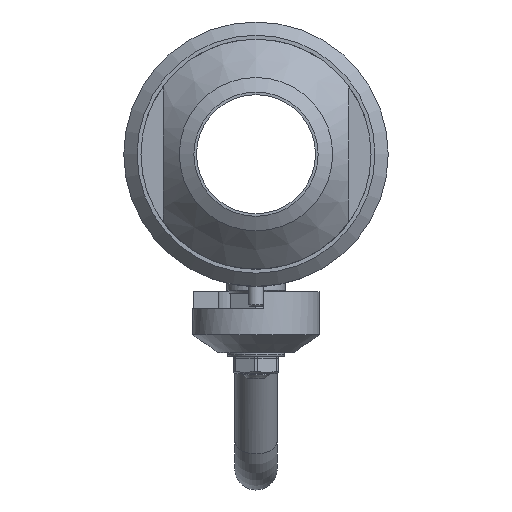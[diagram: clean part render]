
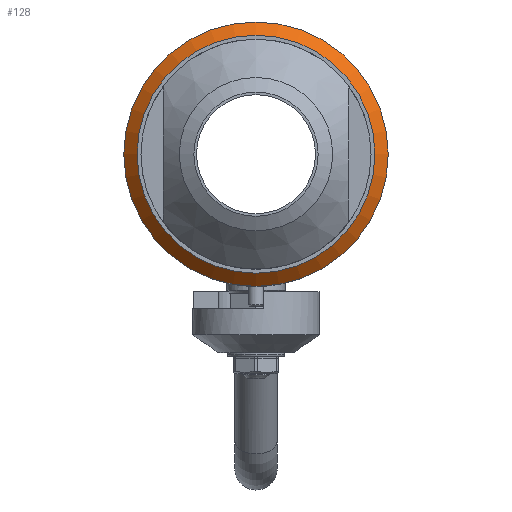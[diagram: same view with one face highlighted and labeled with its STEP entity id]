
A CAD part, left-side view. The second image highlights one B-rep face of the part: STEP entity #128.
In plain terms, the highlighted conical face has half-angle 45 degrees and reference radius 47.5 mm.
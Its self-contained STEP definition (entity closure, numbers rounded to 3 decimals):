
#128=ADVANCED_FACE('',(#1107),#1109,.T.);
#1107=FACE_OUTER_BOUND('',#1108,.T.);
#1108=EDGE_LOOP('',(#2005,#2006,#2007,#2008));
#1109=CONICAL_SURFACE('',#1110,47.5,0.785);
#1110=AXIS2_PLACEMENT_3D('',#1111,#1112,#1113);
#1111=CARTESIAN_POINT('',(-32.5,0.,0.));
#1112=DIRECTION('',(1.,0.,0.));
#1113=DIRECTION('',(0.,1.,0.));
#2005=ORIENTED_EDGE('',*,*,#3061,.T.);
#2006=ORIENTED_EDGE('',*,*,#3051,.T.);
#2007=ORIENTED_EDGE('',*,*,#3061,.F.);
#2008=ORIENTED_EDGE('',*,*,#3062,.F.);
#3051=EDGE_CURVE('',#3340,#3340,#3342,.T.);
#3061=EDGE_CURVE('',#3356,#3340,#3357,.T.);
#3062=EDGE_CURVE('',#3356,#3356,#3358,.T.);
#3340=VERTEX_POINT('',#4743);
#3342=CIRCLE('',#4747,50.);
#3356=VERTEX_POINT('',#4834);
#3357=LINE('',#4835,#4836);
#3358=CIRCLE('',#4838,45.);
#4743=CARTESIAN_POINT('',(-30.,-50.,0.));
#4747=AXIS2_PLACEMENT_3D('',#4748,#4749,#4750);
#4748=CARTESIAN_POINT('',(-30.,0.,0.));
#4749=DIRECTION('',(-1.,-0.,0.));
#4750=DIRECTION('',(0.,-1.,0.));
#4834=CARTESIAN_POINT('',(-35.,-45.,0.));
#4835=CARTESIAN_POINT('',(-35.,-45.,0.));
#4836=VECTOR('',#4837,1.);
#4837=DIRECTION('',(0.707,-0.707,0.));
#4838=AXIS2_PLACEMENT_3D('',#4839,#4840,#4841);
#4839=CARTESIAN_POINT('',(-35.,0.,0.));
#4840=DIRECTION('',(-1.,-0.,-0.));
#4841=DIRECTION('',(0.,-1.,0.));
